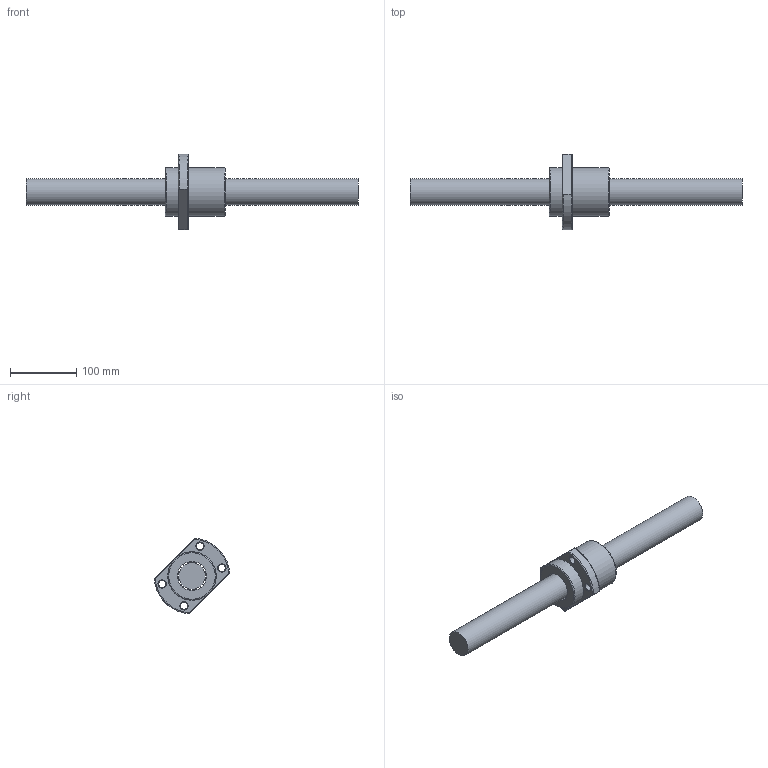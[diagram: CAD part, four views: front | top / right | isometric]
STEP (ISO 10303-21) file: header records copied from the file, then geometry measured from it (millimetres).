
FILE_DESCRIPTION (( 'STEP AP203' ), '1' );
FILE_NAME ('SFYA04080-1.6.step', '2024-05-22T07:52:32', ( '' ), ( '' ), 'SwSTEP 2.0', 'SolidWorks 2022', '' );
FILE_SCHEMA (( 'CONFIG_CONTROL_DESIGN' ));
Length unit declared in the file: millimetre
Products named in the file (1): SFYA04080-1.6
Bounding box: 500 x 113.74 x 113.74 mm (x, y, z)
Volume: 918249 mm3; surface area: 113755.2 mm2
Topology: 2 solids, 2 shells, 49 faces, 118 edges, 75 vertices
Faces by surface type: cylinder 17, plane 13, cone 9, torus 6, bspline 4
Full cylindrical faces by diameter (mm): 4 x1, 5 x5, 11 x4, 40 x1, 43.8 x1, 73 x2
Entity records: 3019 total; most frequent: CARTESIAN_POINT 2058, DIRECTION 170, ORIENTED_EDGE 156, EDGE_LOOP 80, EDGE_CURVE 78, AXIS2_PLACEMENT_3D 77, VERTEX_POINT 62, FACE_OUTER_BOUND 57
